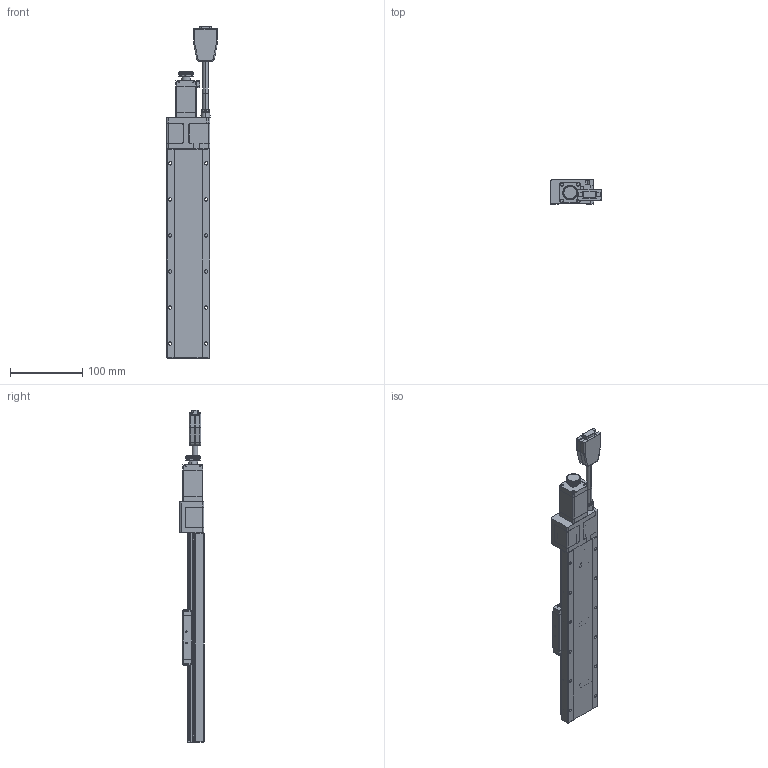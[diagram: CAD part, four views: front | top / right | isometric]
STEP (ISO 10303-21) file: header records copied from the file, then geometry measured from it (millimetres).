
FILE_DESCRIPTION (( 'STEP AP203' ), '1' );
FILE_NAME ('CXN60200-S2?N.STEP', '2023-09-28T02:59:19', ( '' ), ( '' ), 'SwSTEP 2.0', 'SolidWorks 2019', '' );
FILE_SCHEMA (( 'CONFIG_CONTROL_DESIGN' ));
Products named in the file (3): CXN60200-S2?N; Group1^CXN60200-S2?N(2023·sª©)_defeature_defeature_GMT; Group2^CXN60200-S2?N(2023·sª©)_defeature_defeature_GMT
Assembly tree (2 placements, depth 2):
  CXN60200-S2?N
    Group2^CXN60200-S2?N(2023·sª©)_defeature_defeature_GMT
    Group1^CXN60200-S2?N(2023·sª©)_defeature_defeature_GMT
Bounding box: 70.5 x 33.5 x 460.6 mm (x, y, z)
Volume: 38974.2 mm3; surface area: 137423.7 mm2
Topology: 3 solids, 6 shells, 3964 faces, 10513 edges, 6576 vertices
Faces by surface type: plane 1760, cylinder 1075, torus 396, bspline 327, cone 272, sphere 134
Entity records: 139781 total; most frequent: CARTESIAN_POINT 43433, ORIENTED_EDGE 20742, DIRECTION 19444, EDGE_CURVE 10371, AXIS2_PLACEMENT_3D 7055, VERTEX_POINT 6568, LINE 5334, VECTOR 5334
